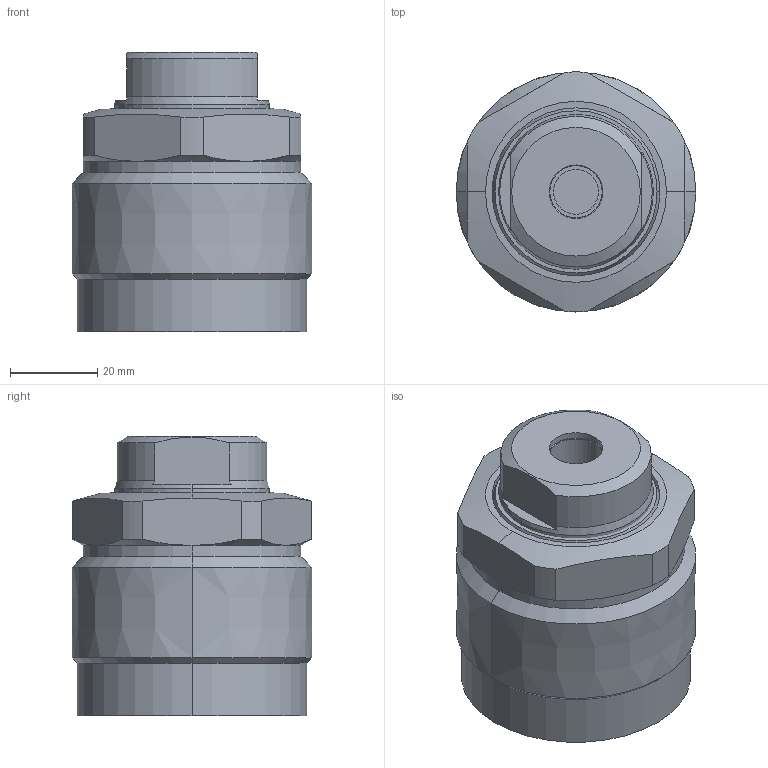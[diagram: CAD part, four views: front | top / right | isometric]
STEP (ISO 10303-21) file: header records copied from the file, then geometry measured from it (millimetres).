
FILE_DESCRIPTION((' '),'2;1');
FILE_NAME( 'TGP55-AS.x_t.stp', '2025-02-10T16:03:57', (' '), ('--- Datakit www.datakit.com---'), ' Datakit CrossCadWare V2024.1 Dec 21 2023', 'Mastercam 2025', ' ');
FILE_SCHEMA(('AUTOMOTIVE_DESIGN { 1 0 10303 214 1 1 1 1 }'));
Length unit declared in the file: millimetre
Products named in the file (1): TGP55-AS
Bounding box: 55 x 55 x 64 mm (x, y, z)
Volume: 132160.8 mm3; surface area: 19553.4 mm2
Topology: 2 solids, 2 shells, 81 faces, 186 edges, 115 vertices
Faces by surface type: cylinder 32, cone 24, plane 21, torus 4
Entity records: 2436 total; most frequent: CARTESIAN_POINT 561, DIRECTION 416, ORIENTED_EDGE 368, EDGE_CURVE 184, AXIS2_PLACEMENT_3D 178, VERTEX_POINT 115, CIRCLE 96, EDGE_LOOP 89
